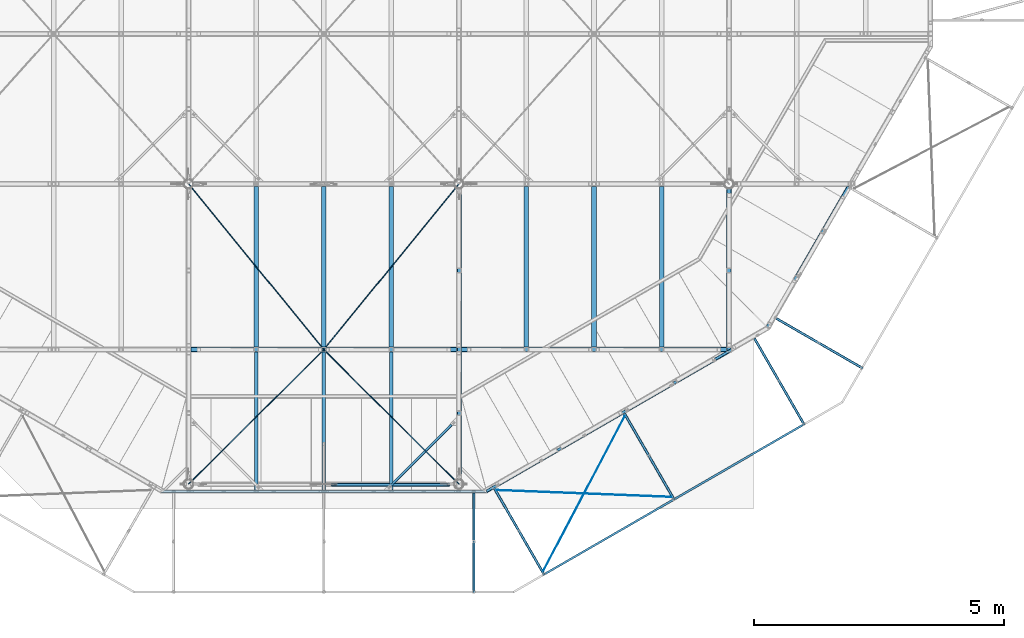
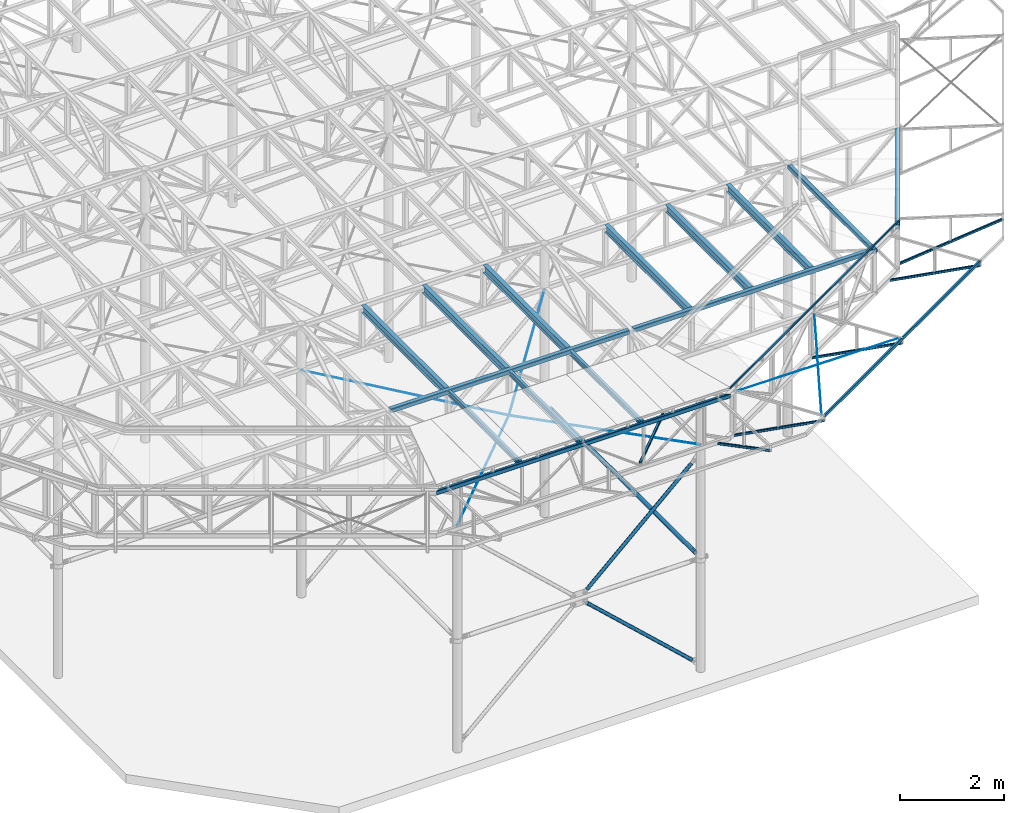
# One storey, part 11 of 132: 25 beams, 7 members, 32 elements without a shape of their own.
"""IFC2X3 building model written with IfcOpenShell, lengths in millimetres."""

from ifc_helpers import new_model, si_unit, frame, origin_with_axes, origin_2d_with_axis, place, context, subcontext, project, spatial, rectangle, hollow_rectangle, circle, hollow_circle, i_section, l_section, u_section, extrude, boolean, clip, halfspace, material, type_object, element, aggregate, save


model = new_model("IFC2X3")

# Units and contexts
model_context = context("Model", 3, precision=1e-05, world=origin_with_axes())
body_context = subcontext(model_context, "Body", "Model", "MODEL_VIEW")
ifc_project = project(units=[si_unit("LENGTHUNIT", "METRE", prefix="MILLI"), si_unit("AREAUNIT", "SQUARE_METRE"), si_unit("VOLUMEUNIT", "CUBIC_METRE"), si_unit("MASSUNIT", "GRAM", prefix="KILO"), si_unit("TIMEUNIT", "SECOND"), si_unit("PLANEANGLEUNIT", "RADIAN"), si_unit("SOLIDANGLEUNIT", "STERADIAN"), si_unit("THERMODYNAMICTEMPERATUREUNIT", "DEGREE_CELSIUS"), si_unit("LUMINOUSINTENSITYUNIT", "LUMEN")], contexts=[model_context])

# Site, building, storey
site_placement = place(None, origin_with_axes())
site = spatial("IfcSite", under=ifc_project, at=site_placement, Name="Budowa", CompositionType="ELEMENT")
building_placement = place(site_placement, origin_with_axes())
building = spatial("IfcBuilding", under=site, at=building_placement, Name="Undefined", CompositionType="ELEMENT")
storey_placement = place(building_placement, origin_with_axes())
storey = spatial("IfcBuildingStorey", under=building, at=storey_placement, Name="Undefined", CompositionType="ELEMENT", Elevation=0.0)

# Assembly, member
assembly_1_placement = place(storey_placement, origin_with_axes())
assembly_1 = element("IfcElementAssembly", 1, at=assembly_1_placement, inside=storey, Name="Steel Assembly", AssemblyPlace="NOTDEFINED", PredefinedType="RIGID_FRAME")
ifc_material_1 = material(Name="STEEL/S235JR")
member_type_1 = type_object("IfcMemberType", Name="CHS76.1*3", PredefinedType="NOTDEFINED")
member_1_placement = place(assembly_1_placement, frame((12125.0013347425, -9.99999994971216, 10116.0003779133), z_axis=(0.0, -1.0, 0.0), x_axis=(0.734552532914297, 0.0, -0.678551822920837)))
member_1 = element("IfcMember", 2, at=member_1_placement, type_object=member_type_1, material=ifc_material_1, Name="BEAM", ObjectType="CHS76.1*3", context=body_context, shape_type="CSG", body=[
    boolean("DIFFERENCE", boolean("DIFFERENCE", boolean("DIFFERENCE", boolean("DIFFERENCE", extrude(hollow_circle(Radius=38.05, WallThickness=3.0, at=origin_2d_with_axis()), frame((3399.19575233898, -1.88693269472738e-13, 0.0), z_axis=(-1.0, 0.0, 0.0), x_axis=(0.0, -1.0, 0.0)), (0.0, 0.0, 1.0), 3169.77), extrude(rectangle(XDim=10.0, YDim=80.1, at=origin_2d_with_axis()), frame((310.424563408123, 8.74467165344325e-13, 2.93223274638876e-06), z_axis=(-1.0, 0.0, 0.0), x_axis=(0.0, 0.0, -1.0)), (0.0, 0.0, 1.0), 83.0)), extrude(rectangle(XDim=10.0, YDim=78.1, at=origin_2d_with_axis()), frame((3318.19575233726, 0.0, 2.70282180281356e-06), z_axis=(1.0, 0.0, 0.0), x_axis=(0.0, 0.0, -1.0)), (0.0, 0.0, 1.0), 93.0)), halfspace(frame((3399.1957523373, -5.45696821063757e-12, -11.9999972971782), z_axis=(-1.0, 0.0, 0.0), x_axis=(0.0, 1.0, 0.0)), True)), halfspace(frame((229.424563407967, 5.45696821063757e-12, -11.9999970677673), z_axis=(1.0, 0.0, 0.0), x_axis=(0.0, -1.0, 0.0)), True)),
])
aggregate(assembly_1, [member_1])

assembly_2_placement = place(storey_placement, origin_with_axes())
assembly_2 = element("IfcElementAssembly", 3, at=assembly_2_placement, inside=storey, Name="Steel Assembly", AssemblyPlace="NOTDEFINED", PredefinedType="RIGID_FRAME")
member_2_placement = place(assembly_2_placement, frame((14684.1014860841, -9.99999994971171, 12480.0002212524), z_axis=(0.0, -1.0, 0.0), x_axis=(-0.734552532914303, 0.0, -0.67855182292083)))
member_2 = element("IfcMember", 4, at=member_2_placement, type_object=member_type_1, material=ifc_material_1, Name="BEAM", ObjectType="CHS76.1*3", context=body_context, shape_type="CSG", body=[
    boolean("DIFFERENCE", boolean("DIFFERENCE", boolean("DIFFERENCE", boolean("DIFFERENCE", extrude(hollow_circle(Radius=38.05, WallThickness=3.0, at=origin_2d_with_axis()), frame((3254.46533546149, 0.0, 0.0), z_axis=(-1.0, 0.0, 0.0), x_axis=(0.0, -1.0, 0.0)), (0.0, 0.0, 1.0), 3169.77), extrude(rectangle(XDim=10.0, YDim=80.1, at=origin_2d_with_axis()), frame((3173.46533545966, 5.74262859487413e-12, 3.21735569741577e-06), z_axis=(1.0, 0.0, 0.0), x_axis=(0.0, 0.0, -1.0)), (0.0, 0.0, 1.0), 83.0)), extrude(rectangle(XDim=10.0, YDim=78.1, at=origin_2d_with_axis()), frame((165.694149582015, 0.0, 2.42306850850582e-06), z_axis=(-1.0, 0.0, 0.0), x_axis=(0.0, 0.0, -1.0)), (0.0, 0.0, 1.0), 93.0)), halfspace(frame((3254.46533545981, 3.63797880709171e-12, -11.9999967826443), z_axis=(-1.0, 0.0, 0.0), x_axis=(0.0, 1.0, 0.0)), True)), halfspace(frame((84.6941495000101, -0.00128033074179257, -11.9999975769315), z_axis=(1.0, 0.0, 0.0), x_axis=(0.0, -1.0, 0.0)), True)),
])
aggregate(assembly_2, [member_2])

# Assembly, beam
assembly_3_placement = place(storey_placement, origin_with_axes())
assembly_3 = element("IfcElementAssembly", 5, at=assembly_3_placement, inside=storey, Name="Steel Assembly", AssemblyPlace="NOTDEFINED", PredefinedType="RIGID_FRAME")
beam_type_1 = type_object("IfcBeamType", Name="CHS88.9*3", PredefinedType="NOTDEFINED")
beam_1_placement = place(assembly_3_placement, frame((14832.9999935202, 88.900000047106, 10116.0003779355), z_axis=(1.0, 0.0, 0.0), x_axis=(0.0, 1.0, 0.0)))
beam_1 = element("IfcBeam", 6, at=beam_1_placement, type_object=beam_type_1, material=ifc_material_1, Name="BEAM", ObjectType="CHS88.9*3", context=body_context, shape_type="CSG", body=[
    boolean("DIFFERENCE", boolean("DIFFERENCE", boolean("DIFFERENCE", boolean("DIFFERENCE", extrude(hollow_circle(Radius=44.45, WallThickness=3.0, at=origin_2d_with_axis()), frame((5703.19209466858, 0.0, 0.0), z_axis=(-1.0, 0.0, 0.0), x_axis=(0.0, -1.0, 0.0)), (0.0, 0.0, 1.0), 5584.18), extrude(rectangle(XDim=9.0, YDim=92.9, at=origin_2d_with_axis()), frame((5602.19209466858, 0.0, 3.70549059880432e-06), z_axis=(1.0, 0.0, 0.0), x_axis=(0.0, 0.0, -1.0)), (0.0, 0.0, 1.0), 103.0)), extrude(rectangle(XDim=9.0, YDim=92.9, at=origin_2d_with_axis()), frame((220.00790537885, 0.0, 3.42542261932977e-06), z_axis=(-1.0, 0.0, 0.0), x_axis=(0.0, 0.0, -1.0)), (0.0, 0.0, 1.0), 103.0)), halfspace(frame((5703.19209466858, 0.0, -11.9999962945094), z_axis=(-1.0, 0.0, 0.0), x_axis=(0.0, 1.0, 0.0)), True)), halfspace(frame((119.00790537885, 0.0, -11.9999965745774), z_axis=(1.0, 0.0, 0.0), x_axis=(0.0, -1.0, 0.0)), True)),
])
aggregate(assembly_3, [beam_1])

assembly_4_placement = place(storey_placement, origin_with_axes())
assembly_4 = element("IfcElementAssembly", 7, at=assembly_4_placement, inside=storey, Name="Steel Assembly", AssemblyPlace="NOTDEFINED", PredefinedType="RIGID_FRAME")
ifc_material_2 = material(Name="STEEL/S235")
beam_type_2 = type_object("IfcBeamType", Name="L60*40*6", PredefinedType="NOTDEFINED")
beam_2_placement = place(assembly_4_placement, frame((15372.0002135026, -148.919114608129, 14004.0), z_axis=(-0.499992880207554, 0.866029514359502, 0.0), x_axis=(0.866029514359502, 0.499992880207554, 0.0)))
beam_2 = element("IfcBeam", 8, at=beam_2_placement, type_object=beam_type_2, material=ifc_material_2, Name="BEAM", ObjectType="L60*40*6", context=body_context, shape_type="Clipping", body=[
    clip(clip(extrude(l_section(Depth=60.0, Width=40.0, Thickness=6.0, FilletRadius=6.0, EdgeRadius=3.0, at=origin_2d_with_axis()), frame((6569.30011076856, 0.0, -3.64669411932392e-13), z_axis=(-1.0, 0.0, 0.0), x_axis=(0.0, -1.0, 0.0)), (0.0, 0.0, 1.0), 6613.74), halfspace(frame((6508.78109983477, 0.0, 29.9999999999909), z_axis=(-0.965926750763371, 0.0, -0.258815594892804), x_axis=(0.0, -1.0, 0.0)), True)), halfspace(frame((-1.35811551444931e-05, 1.81898940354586e-12, -30.0000000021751), z_axis=(0.965926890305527, 0.0, -0.258815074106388), x_axis=(0.0, -1.0, 0.0)), True)),
])
aggregate(assembly_4, [beam_2])

assembly_5_placement = place(storey_placement, origin_with_axes())
assembly_5 = element("IfcElementAssembly", 9, at=assembly_5_placement, inside=storey, Name="Steel Assembly", AssemblyPlace="NOTDEFINED", PredefinedType="RIGID_FRAME")
beam_type_3 = type_object("IfcBeamType", Name="IPE180", PredefinedType="NOTDEFINED")
beam_3_placement = place(assembly_5_placement, frame((16174.9999999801, 2739.00000004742, 13790.0), z_axis=(0.0, 0.0, 1.0), x_axis=(0.0, 1.0, 0.0)))
beam_3 = element("IfcBeam", 10, at=beam_3_placement, type_object=beam_type_3, material=ifc_material_2, Name="BEAM", ObjectType="IPE180", context=body_context, shape_type="SweptSolid", body=[
    extrude(i_section(OverallWidth=91.0, OverallDepth=180.0, WebThickness=5.300000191, FlangeThickness=8.0, FilletRadius=9.0, at=origin_2d_with_axis()), frame((3210.99999999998, 0.0, 0.0), z_axis=(-1.0, 0.0, 0.0), x_axis=(0.0, -1.0, 0.0)), (0.0, 0.0, 1.0), 3211.0),
])
aggregate(assembly_5, [beam_3])

assembly_6_placement = place(storey_placement, origin_with_axes())
assembly_6 = element("IfcElementAssembly", 11, at=assembly_6_placement, inside=storey, Name="Steel Assembly", AssemblyPlace="NOTDEFINED", PredefinedType="RIGID_FRAME")
beam_4_placement = place(assembly_6_placement, frame((18874.9999999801, 2739.00000004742, 13790.0), z_axis=(0.0, 0.0, 1.0), x_axis=(0.0, 1.0, 0.0)))
beam_4 = element("IfcBeam", 12, at=beam_4_placement, type_object=beam_type_3, material=ifc_material_2, Name="BEAM", ObjectType="IPE180", context=body_context, shape_type="SweptSolid", body=[
    extrude(i_section(OverallWidth=91.0, OverallDepth=180.0, WebThickness=5.300000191, FlangeThickness=8.0, FilletRadius=9.0, at=origin_2d_with_axis()), frame((3210.99999999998, 0.0, 0.0), z_axis=(-1.0, 0.0, 0.0), x_axis=(0.0, -1.0, 0.0)), (0.0, 0.0, 1.0), 3211.0),
])
aggregate(assembly_6, [beam_4])

assembly_7_placement = place(storey_placement, origin_with_axes())
assembly_7 = element("IfcElementAssembly", 13, at=assembly_7_placement, inside=storey, Name="Steel Assembly", AssemblyPlace="NOTDEFINED", PredefinedType="RIGID_FRAME")
beam_5_placement = place(assembly_7_placement, frame((17524.9999999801, 2739.00000004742, 13790.0), z_axis=(0.0, 0.0, 1.0), x_axis=(0.0, 1.0, 0.0)))
beam_5 = element("IfcBeam", 14, at=beam_5_placement, type_object=beam_type_3, material=ifc_material_2, Name="BEAM", ObjectType="IPE180", context=body_context, shape_type="SweptSolid", body=[
    extrude(i_section(OverallWidth=91.0, OverallDepth=180.0, WebThickness=5.300000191, FlangeThickness=8.0, FilletRadius=9.0, at=origin_2d_with_axis()), frame((3210.99999999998, 0.0, 0.0), z_axis=(-1.0, 0.0, 0.0), x_axis=(0.0, -1.0, 0.0)), (0.0, 0.0, 1.0), 3211.0),
])
aggregate(assembly_7, [beam_5])

assembly_8_placement = place(storey_placement, origin_with_axes())
assembly_8 = element("IfcElementAssembly", 15, at=assembly_8_placement, inside=storey, Name="Steel Assembly", AssemblyPlace="NOTDEFINED", PredefinedType="RIGID_FRAME")
beam_6_placement = place(assembly_8_placement, frame((10774.9999999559, 2739.00000004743, 13790.0), z_axis=(0.0, 0.0, 1.0), x_axis=(0.0, 1.0, 0.0)))
beam_6 = element("IfcBeam", 16, at=beam_6_placement, type_object=beam_type_3, material=ifc_material_2, Name="BEAM", ObjectType="IPE180", context=body_context, shape_type="SweptSolid", body=[
    extrude(i_section(OverallWidth=91.0, OverallDepth=180.0, WebThickness=5.300000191, FlangeThickness=8.0, FilletRadius=9.0, at=origin_2d_with_axis()), frame((3210.99999999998, 0.0, 0.0), z_axis=(-1.0, 0.0, 0.0), x_axis=(0.0, -1.0, 0.0)), (0.0, 0.0, 1.0), 3211.0),
])
aggregate(assembly_8, [beam_6])

assembly_9_placement = place(storey_placement, origin_with_axes())
assembly_9 = element("IfcElementAssembly", 17, at=assembly_9_placement, inside=storey, Name="Steel Assembly", AssemblyPlace="NOTDEFINED", PredefinedType="RIGID_FRAME")
beam_7_placement = place(assembly_9_placement, frame((13474.9999999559, 2739.00000004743, 13790.0), z_axis=(0.0, 0.0, 1.0), x_axis=(0.0, 1.0, 0.0)))
beam_7 = element("IfcBeam", 18, at=beam_7_placement, type_object=beam_type_3, material=ifc_material_2, Name="BEAM", ObjectType="IPE180", context=body_context, shape_type="SweptSolid", body=[
    extrude(i_section(OverallWidth=91.0, OverallDepth=180.0, WebThickness=5.300000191, FlangeThickness=8.0, FilletRadius=9.0, at=origin_2d_with_axis()), frame((3210.99999999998, 0.0, 0.0), z_axis=(-1.0, 0.0, 0.0), x_axis=(0.0, -1.0, 0.0)), (0.0, 0.0, 1.0), 3211.0),
])
aggregate(assembly_9, [beam_7])

assembly_10_placement = place(storey_placement, origin_with_axes())
assembly_10 = element("IfcElementAssembly", 19, at=assembly_10_placement, inside=storey, Name="Steel Assembly", AssemblyPlace="NOTDEFINED", PredefinedType="RIGID_FRAME")
beam_8_placement = place(assembly_10_placement, frame((12124.9999999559, 2739.00000004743, 13790.0), z_axis=(0.0, 0.0, 1.0), x_axis=(0.0, 1.0, 0.0)))
beam_8 = element("IfcBeam", 20, at=beam_8_placement, type_object=beam_type_3, material=ifc_material_2, Name="BEAM", ObjectType="IPE180", context=body_context, shape_type="SweptSolid", body=[
    extrude(i_section(OverallWidth=91.0, OverallDepth=180.0, WebThickness=5.300000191, FlangeThickness=8.0, FilletRadius=9.0, at=origin_2d_with_axis()), frame((3210.99999999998, 0.0, 0.0), z_axis=(-1.0, 0.0, 0.0), x_axis=(0.0, -1.0, 0.0)), (0.0, 0.0, 1.0), 3211.0),
])
aggregate(assembly_10, [beam_8])

assembly_11_placement = place(storey_placement, origin_with_axes())
assembly_11 = element("IfcElementAssembly", 21, at=assembly_11_placement, inside=storey, Name="Steel Assembly", AssemblyPlace="NOTDEFINED", PredefinedType="RIGID_FRAME")
beam_type_4 = type_object("IfcBeamType", Name="D10", PredefinedType="NOTDEFINED")
beam_9_placement = place(assembly_11_placement, frame((16513.6077559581, -1730.73260084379, 13945.5281319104), z_axis=(-0.0249673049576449, 0.0432481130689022, 0.998752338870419), x_axis=(0.465616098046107, 0.884585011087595, -0.0266647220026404)))
beam_9 = element("IfcBeam", 22, at=beam_9_placement, type_object=beam_type_4, material=ifc_material_2, Name="BEAM", ObjectType="D10", context=body_context, shape_type="SweptSolid", body=[
    extrude(circle(Radius=5.0, at=origin_2d_with_axis()), frame((3489.02120950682, 1.67199953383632e-13, 1.2104974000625e-14), z_axis=(-1.0, 0.0, 0.0), x_axis=(0.0, -1.0, 0.0)), (0.0, 0.0, 1.0), 3489.02),
])
aggregate(assembly_11, [beam_9])

assembly_12_placement = place(storey_placement, origin_with_axes())
assembly_12 = element("IfcElementAssembly", 23, at=assembly_12_placement, inside=storey, Name="Steel Assembly", AssemblyPlace="NOTDEFINED", PredefinedType="RIGID_FRAME")
beam_10_placement = place(assembly_12_placement, frame((19068.4339779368, -255.821425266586, 13945.5281319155), z_axis=(-0.0249673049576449, 0.0432481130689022, 0.998752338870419), x_axis=(-0.998878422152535, 0.0391265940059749, -0.0266647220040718)))
beam_10 = element("IfcBeam", 24, at=beam_10_placement, type_object=beam_type_4, material=ifc_material_2, Name="BEAM", ObjectType="D10", context=body_context, shape_type="SweptSolid", body=[
    extrude(circle(Radius=5.0, at=origin_2d_with_axis()), frame((3489.02120950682, 1.67199953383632e-13, 1.2104974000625e-14), z_axis=(-1.0, 0.0, 0.0), x_axis=(0.0, -1.0, 0.0)), (0.0, 0.0, 1.0), 3489.02),
])
aggregate(assembly_12, [beam_10])

assembly_13_placement = place(storey_placement, origin_with_axes())
assembly_13 = element("IfcElementAssembly", 25, at=assembly_13_placement, inside=storey, Name="Steel Assembly", AssemblyPlace="NOTDEFINED", PredefinedType="RIGID_FRAME")
beam_type_5 = type_object("IfcBeamType", Name="IPE120", PredefinedType="NOTDEFINED")
beam_11_placement = place(assembly_13_placement, frame((10774.9999999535, 2639.0000000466, 13820.0), z_axis=(0.0, 0.0, 1.0), x_axis=(0.0, -1.0, 0.0)))
beam_11 = element("IfcBeam", 26, at=beam_11_placement, type_object=beam_type_5, material=ifc_material_2, Name="BEAM", ObjectType="IPE120", context=body_context, shape_type="SweptSolid", body=[
    extrude(i_section(OverallWidth=64.0, OverallDepth=120.0, WebThickness=4.400000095, FlangeThickness=6.300000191, FilletRadius=7.0, at=origin_2d_with_axis()), frame((2753.90000000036, 0.0, 0.0), z_axis=(-1.0, 0.0, 0.0), x_axis=(0.0, -1.0, 0.0)), (0.0, 0.0, 1.0), 2753.9),
])
aggregate(assembly_13, [beam_11])

assembly_14_placement = place(storey_placement, origin_with_axes())
assembly_14 = element("IfcElementAssembly", 27, at=assembly_14_placement, inside=storey, Name="Steel Assembly", AssemblyPlace="NOTDEFINED", PredefinedType="RIGID_FRAME")
beam_12_placement = place(assembly_14_placement, frame((13474.9999999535, 2639.00000004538, 13820.0), z_axis=(0.0, 0.0, 1.0), x_axis=(0.0, -1.0, 0.0)))
beam_12 = element("IfcBeam", 28, at=beam_12_placement, type_object=beam_type_5, material=ifc_material_2, Name="BEAM", ObjectType="IPE120", context=body_context, shape_type="SweptSolid", body=[
    extrude(i_section(OverallWidth=64.0, OverallDepth=120.0, WebThickness=4.400000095, FlangeThickness=6.300000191, FilletRadius=7.0, at=origin_2d_with_axis()), frame((2753.90000000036, 0.0, 0.0), z_axis=(-1.0, 0.0, 0.0), x_axis=(0.0, -1.0, 0.0)), (0.0, 0.0, 1.0), 2753.9),
])
aggregate(assembly_14, [beam_12])

assembly_15_placement = place(storey_placement, origin_with_axes())
assembly_15 = element("IfcElementAssembly", 29, at=assembly_15_placement, inside=storey, Name="Steel Assembly", AssemblyPlace="NOTDEFINED", PredefinedType="RIGID_FRAME")
beam_13_placement = place(assembly_15_placement, frame((12124.9999999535, 2639.00000004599, 13820.0), z_axis=(0.0, 0.0, 1.0), x_axis=(0.0, -1.0, 0.0)))
beam_13 = element("IfcBeam", 30, at=beam_13_placement, type_object=beam_type_5, material=ifc_material_2, Name="BEAM", ObjectType="IPE120", context=body_context, shape_type="SweptSolid", body=[
    extrude(i_section(OverallWidth=64.0, OverallDepth=120.0, WebThickness=4.400000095, FlangeThickness=6.300000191, FilletRadius=7.0, at=origin_2d_with_axis()), frame((2753.90000000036, 0.0, 0.0), z_axis=(-1.0, 0.0, 0.0), x_axis=(0.0, -1.0, 0.0)), (0.0, 0.0, 1.0), 2753.9),
])
aggregate(assembly_15, [beam_13])

assembly_16_placement = place(storey_placement, origin_with_axes())
assembly_16 = element("IfcElementAssembly", 31, at=assembly_16_placement, inside=storey, Name="Steel Assembly", AssemblyPlace="NOTDEFINED", PredefinedType="RIGID_FRAME")
beam_type_6 = type_object("IfcBeamType", Name="C70*40*4", PredefinedType="NOTDEFINED")
beam_14_placement = place(assembly_16_placement, frame((16548.3120774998, -1790.84707632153, 13945.0050192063), z_axis=(0.0, 0.0, -1.0), x_axis=(0.866042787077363, 0.499969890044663, 0.0)))
beam_14 = element("IfcBeam", 32, at=beam_14_placement, type_object=beam_type_6, material=ifc_material_2, Name="BEAM", ObjectType="C70*40*4", context=body_context, shape_type="SweptSolid", body=[
    extrude(u_section(Depth=70.0, FlangeWidth=40.0, WebThickness=4.0, FlangeThickness=4.0, FilletRadius=6.0, at=origin_2d_with_axis()), frame((2949.99999995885, 1.63757896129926e-13, 0.0), z_axis=(-1.0, 0.0, 0.0), x_axis=(0.0, -1.0, 0.0)), (0.0, 0.0, 1.0), 2950.0),
])
aggregate(assembly_16, [beam_14])

assembly_17_placement = place(storey_placement, origin_with_axes())
assembly_17 = element("IfcElementAssembly", 33, at=assembly_17_placement, inside=storey, Name="Steel Assembly", AssemblyPlace="NOTDEFINED", PredefinedType="RIGID_FRAME")
beam_15_placement = place(assembly_17_placement, frame((19146.440438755, -290.93740614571, 13945.0050192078), z_axis=(0.0, 0.0, -1.0), x_axis=(0.866042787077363, 0.499969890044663, 0.0)))
beam_15 = element("IfcBeam", 34, at=beam_15_placement, type_object=beam_type_6, material=ifc_material_2, Name="BEAM", ObjectType="C70*40*4", context=body_context, shape_type="SweptSolid", body=[
    extrude(u_section(Depth=70.0, FlangeWidth=40.0, WebThickness=4.0, FlangeThickness=4.0, FilletRadius=6.0, at=origin_2d_with_axis()), frame((2949.99999995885, 1.63757896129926e-13, 0.0), z_axis=(-1.0, 0.0, 0.0), x_axis=(0.0, -1.0, 0.0)), (0.0, 0.0, 1.0), 2950.0),
])
aggregate(assembly_17, [beam_15])

# Assembly, member
assembly_18_placement = place(storey_placement, origin_with_axes())
assembly_18 = element("IfcElementAssembly", 35, at=assembly_18_placement, inside=storey, Name="Steel Assembly", AssemblyPlace="NOTDEFINED", PredefinedType="RIGID_FRAME")
member_type_2 = type_object("IfcMemberType", Name="SHS50*4", PredefinedType="NOTDEFINED")
member_3_placement = place(assembly_18_placement, frame((21158.0533468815, 3318.94936356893, 12802.1351883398), z_axis=(-0.499969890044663, -0.866042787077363, 0.0), x_axis=(0.766800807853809, -0.442677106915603, 0.464815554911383)))
member_3 = element("IfcMember", 36, at=member_3_placement, type_object=member_type_2, material=ifc_material_2, Name="BEAM", ObjectType="SHS50*4", context=body_context, shape_type="Clipping", body=[
    clip(clip(extrude(hollow_rectangle(XDim=50.0, YDim=50.0, WallThickness=4.0, InnerFilletRadius=4.0, OuterFilletRadius=8.0, at=origin_2d_with_axis()), frame((2325.27637080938, 1.2907876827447e-13, 5.21059351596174e-14), z_axis=(-1.0, 0.0, 0.0), x_axis=(0.0, -1.0, 0.0)), (0.0, 0.0, 1.0), 2325.28), halfspace(frame((26.2486785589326, 24.9999999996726, -25.0000000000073), z_axis=(-0.885407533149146, 0.464815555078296, 0.0), x_axis=(0.0, 0.0, 1.0)), False)), halfspace(frame((2258.9602037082, -25.0000000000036, -1.40062184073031e-10), z_axis=(-0.855808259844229, -0.517293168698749, 0.0), x_axis=(0.0, 0.0, -1.0)), True)),
])
aggregate(assembly_18, [member_3])

assembly_19_placement = place(storey_placement, origin_with_axes())
assembly_19 = element("IfcElementAssembly", 37, at=assembly_19_placement, inside=storey, Name="Steel Assembly", AssemblyPlace="NOTDEFINED", PredefinedType="RIGID_FRAME")
member_4_placement = place(assembly_19_placement, frame((20727.1173157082, 2921.38842371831, 12802.1351883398), z_axis=(0.866042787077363, 0.499969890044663, 0.0), x_axis=(0.442677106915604, -0.766800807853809, 0.464815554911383)))
member_4 = element("IfcMember", 38, at=member_4_placement, type_object=member_type_2, material=ifc_material_2, Name="BEAM", ObjectType="SHS50*4", context=body_context, shape_type="Clipping", body=[
    clip(clip(extrude(hollow_rectangle(XDim=50.0, YDim=50.0, WallThickness=4.0, InnerFilletRadius=4.0, OuterFilletRadius=8.0, at=origin_2d_with_axis()), frame((2325.27637080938, 1.2907876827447e-13, 5.21059351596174e-14), z_axis=(-1.0, 0.0, 0.0), x_axis=(0.0, -1.0, 0.0)), (0.0, 0.0, 1.0), 2325.28), halfspace(frame((26.2486785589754, -24.9999999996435, -25.0000000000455), z_axis=(-0.885407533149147, -0.464815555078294, 0.0), x_axis=(-0.464815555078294, 0.885407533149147, 0.0)), False)), halfspace(frame((2258.9602037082, 25.0000000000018, -1.41881173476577e-10), z_axis=(-0.855808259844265, 0.517293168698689, 0.0), x_axis=(0.0, 0.0, 1.0)), True)),
])
aggregate(assembly_19, [member_4])

assembly_20_placement = place(storey_placement, origin_with_axes())
assembly_20 = element("IfcElementAssembly", 39, at=assembly_20_placement, inside=storey, Name="Steel Assembly", AssemblyPlace="NOTDEFINED", PredefinedType="RIGID_FRAME")
member_5_placement = place(assembly_20_placement, frame((15530.8605932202, -78.4309165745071, 12802.1351883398), z_axis=(0.866042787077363, 0.499969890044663, 0.0), x_axis=(0.442677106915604, -0.766800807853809, 0.464815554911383)))
member_5 = element("IfcMember", 40, at=member_5_placement, type_object=member_type_2, material=ifc_material_2, Name="BEAM", ObjectType="SHS50*4", context=body_context, shape_type="Clipping", body=[
    clip(clip(extrude(hollow_rectangle(XDim=50.0, YDim=50.0, WallThickness=4.0, InnerFilletRadius=4.0, OuterFilletRadius=8.0, at=origin_2d_with_axis()), frame((2325.27637080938, 1.2907876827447e-13, 5.21059351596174e-14), z_axis=(-1.0, 0.0, 0.0), x_axis=(0.0, -1.0, 0.0)), (0.0, 0.0, 1.0), 2325.28), halfspace(frame((26.2486785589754, -24.9999999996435, -25.0000000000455), z_axis=(-0.885407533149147, -0.464815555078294, 0.0), x_axis=(-0.464815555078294, 0.885407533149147, 0.0)), False)), halfspace(frame((2258.9602037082, 25.0000000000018, -1.41881173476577e-10), z_axis=(-0.855808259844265, 0.517293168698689, 0.0), x_axis=(0.0, 0.0, 1.0)), True)),
])
aggregate(assembly_20, [member_5])

assembly_21_placement = place(storey_placement, origin_with_axes())
assembly_21 = element("IfcElementAssembly", 41, at=assembly_21_placement, inside=storey, Name="Steel Assembly", AssemblyPlace="NOTDEFINED", PredefinedType="RIGID_FRAME")
member_6_placement = place(assembly_21_placement, frame((18128.9889544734, 1421.47875358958, 12802.1351883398), z_axis=(0.866042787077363, 0.499969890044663, 0.0), x_axis=(0.442677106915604, -0.766800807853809, 0.464815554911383)))
member_6 = element("IfcMember", 42, at=member_6_placement, type_object=member_type_2, material=ifc_material_2, Name="BEAM", ObjectType="SHS50*4", context=body_context, shape_type="Clipping", body=[
    clip(clip(extrude(hollow_rectangle(XDim=50.0, YDim=50.0, WallThickness=4.0, InnerFilletRadius=4.0, OuterFilletRadius=8.0, at=origin_2d_with_axis()), frame((2325.27637080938, 1.2907876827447e-13, 5.21059351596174e-14), z_axis=(-1.0, 0.0, 0.0), x_axis=(0.0, -1.0, 0.0)), (0.0, 0.0, 1.0), 2325.28), halfspace(frame((26.2486785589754, -24.9999999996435, -25.0000000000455), z_axis=(-0.885407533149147, -0.464815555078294, 0.0), x_axis=(-0.464815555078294, 0.885407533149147, 0.0)), False)), halfspace(frame((2258.9602037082, 25.0000000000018, -1.41881173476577e-10), z_axis=(-0.855808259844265, 0.517293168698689, 0.0), x_axis=(0.0, 0.0, 1.0)), True)),
])
aggregate(assembly_21, [member_6])

assembly_22_placement = place(storey_placement, origin_with_axes())
assembly_22 = element("IfcElementAssembly", 43, at=assembly_22_placement, inside=storey, Name="Steel Assembly", AssemblyPlace="NOTDEFINED", PredefinedType="RIGID_FRAME")
member_7_placement = place(assembly_22_placement, frame((15124.9999999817, -163.279610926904, 12802.1351883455), z_axis=(1.0, 0.0, 0.0), x_axis=(0.0, -0.885407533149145, 0.464815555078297)))
member_7 = element("IfcMember", 44, at=member_7_placement, type_object=member_type_2, material=ifc_material_2, Name="BEAM", ObjectType="SHS50*4", context=body_context, shape_type="Clipping", body=[
    clip(clip(extrude(hollow_rectangle(XDim=50.0, YDim=50.0, WallThickness=4.0, InnerFilletRadius=4.0, OuterFilletRadius=8.0, at=origin_2d_with_axis()), frame((2286.55526217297, 7.105427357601e-15, -1.81898940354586e-12), z_axis=(-1.0, 0.0, 0.0), x_axis=(0.0, -1.0, 0.0)), (0.0, 0.0, 1.0), 2286.56), halfspace(frame((26.2486785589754, -24.9999999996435, -25.0000000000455), z_axis=(-0.885407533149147, -0.464815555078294, 0.0), x_axis=(-0.464815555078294, 0.885407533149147, 0.0)), False)), halfspace(frame((2258.9602037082, 25.0000000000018, -1.41881173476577e-10), z_axis=(-0.855808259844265, 0.517293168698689, 0.0), x_axis=(0.0, 0.0, 1.0)), True)),
])
aggregate(assembly_22, [member_7])

# Assembly, beam
assembly_23_placement = place(storey_placement, origin_with_axes())
assembly_23 = element("IfcElementAssembly", 45, at=assembly_23_placement, inside=storey, Name="Steel Assembly", AssemblyPlace="NOTDEFINED", PredefinedType="RIGID_FRAME")
beam_type_7 = type_object("IfcBeamType", Name="D16", PredefinedType="NOTDEFINED")
beam_16_placement = place(assembly_23_placement, frame((14824.9999999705, 6000.00000004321, 12780.0), z_axis=(0.0, 0.0, 1.0), x_axis=(-0.632089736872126, -0.774895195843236, 0.0)))
beam_16 = element("IfcBeam", 46, at=beam_16_placement, type_object=beam_type_7, material=ifc_material_2, Name="BEAM", ObjectType="D16", context=body_context, shape_type="SweptSolid", body=[
    extrude(circle(Radius=8.0, at=origin_2d_with_axis()), frame((4271.54538738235, 0.0, 0.0), z_axis=(-1.0, 0.0, 0.0), x_axis=(0.0, -1.0, 0.0)), (0.0, 0.0, 1.0), 4271.55),
])
aggregate(assembly_23, [beam_16])

assembly_24_placement = place(storey_placement, origin_with_axes())
assembly_24 = element("IfcElementAssembly", 47, at=assembly_24_placement, inside=storey, Name="Steel Assembly", AssemblyPlace="NOTDEFINED", PredefinedType="RIGID_FRAME")
beam_17_placement = place(assembly_24_placement, frame((12124.9999999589, 2690.00000067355, 12780.0), z_axis=(0.0, 0.0, 1.0), x_axis=(-0.632089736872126, 0.774895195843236, 0.0)))
beam_17 = element("IfcBeam", 48, at=beam_17_placement, type_object=beam_type_7, material=ifc_material_2, Name="BEAM", ObjectType="D16", context=body_context, shape_type="SweptSolid", body=[
    extrude(circle(Radius=8.0, at=origin_2d_with_axis()), frame((4271.54538738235, 0.0, 0.0), z_axis=(-1.0, 0.0, 0.0), x_axis=(0.0, -1.0, 0.0)), (0.0, 0.0, 1.0), 4271.55),
])
aggregate(assembly_24, [beam_17])

assembly_25_placement = place(storey_placement, origin_with_axes())
assembly_25 = element("IfcElementAssembly", 49, at=assembly_25_placement, inside=storey, Name="Steel Assembly", AssemblyPlace="NOTDEFINED", PredefinedType="RIGID_FRAME")
beam_18_placement = place(assembly_25_placement, frame((9424.99999994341, 4.52314452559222e-08, 12780.0), z_axis=(0.0, 0.0, 1.0), x_axis=(0.708417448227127, 0.705793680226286, 0.0)))
beam_18 = element("IfcBeam", 50, at=beam_18_placement, type_object=beam_type_7, material=ifc_material_2, Name="BEAM", ObjectType="D16", context=body_context, shape_type="SweptSolid", body=[
    extrude(circle(Radius=8.0, at=origin_2d_with_axis()), frame((3811.31211046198, 0.0, -1.81898940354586e-12), z_axis=(-1.0, 0.0, 0.0), x_axis=(0.0, -1.0, 0.0)), (0.0, 0.0, 1.0), 3811.31),
])
aggregate(assembly_25, [beam_18])

assembly_26_placement = place(storey_placement, origin_with_axes())
assembly_26 = element("IfcElementAssembly", 51, at=assembly_26_placement, inside=storey, Name="Steel Assembly", AssemblyPlace="NOTDEFINED", PredefinedType="RIGID_FRAME")
beam_19_placement = place(assembly_26_placement, frame((12124.9999999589, 2690.00000067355, 12780.0), z_axis=(0.0, 0.0, 1.0), x_axis=(0.708417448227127, -0.705793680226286, 0.0)))
beam_19 = element("IfcBeam", 52, at=beam_19_placement, type_object=beam_type_7, material=ifc_material_2, Name="BEAM", ObjectType="D16", context=body_context, shape_type="SweptSolid", body=[
    extrude(circle(Radius=8.0, at=origin_2d_with_axis()), frame((3811.31211046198, 0.0, -1.81898940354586e-12), z_axis=(-1.0, 0.0, 0.0), x_axis=(0.0, -1.0, 0.0)), (0.0, 0.0, 1.0), 3811.31),
])
aggregate(assembly_26, [beam_19])

assembly_27_placement = place(storey_placement, origin_with_axes())
assembly_27 = element("IfcElementAssembly", 53, at=assembly_27_placement, inside=storey, Name="Steel Assembly", AssemblyPlace="NOTDEFINED", PredefinedType="RIGID_FRAME")
beam_type_8 = type_object("IfcBeamType", Name="SHS50*5", PredefinedType="NOTDEFINED")
beam_20_placement = place(assembly_27_placement, frame((15074.9999999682, 1584.90000010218, 12830.0), z_axis=(0.0, 0.0, 1.0), x_axis=(-0.70710678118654, -0.707106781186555, 0.0)))
beam_20 = element("IfcBeam", 54, at=beam_20_placement, type_object=beam_type_8, material=ifc_material_2, Name="BEAM", ObjectType="SHS50*5", context=body_context, shape_type="Clipping", body=[
    clip(clip(extrude(hollow_rectangle(XDim=50.0, YDim=50.0, WallThickness=5.0, InnerFilletRadius=5.0, OuterFilletRadius=10.0, at=origin_2d_with_axis()), frame((2264.08122086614, 0.0, 0.0), z_axis=(-1.0, 0.0, 0.0), x_axis=(0.0, -1.0, 0.0)), (0.0, 0.0, 1.0), 1700.02), halfspace(frame((2264.08122086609, 9.09494701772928e-11, -9.0), z_axis=(-1.0, 0.0, 0.0), x_axis=(0.0, 1.0, 0.0)), True)), halfspace(frame((564.063061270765, -1.43882061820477e-09, -8.99999999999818), z_axis=(1.0, 0.0, 0.0), x_axis=(0.0, -1.0, 0.0)), True)),
])
aggregate(assembly_27, [beam_20])

assembly_28_placement = place(storey_placement, origin_with_axes())
assembly_28 = element("IfcElementAssembly", 55, at=assembly_28_placement, inside=storey, Name="Steel Assembly", AssemblyPlace="NOTDEFINED", PredefinedType="RIGID_FRAME")
beam_type_9 = type_object("IfcBeamType", Name="SHS100*8", PredefinedType="NOTDEFINED")
beam_21_placement = place(assembly_28_placement, frame((14874.9999999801, 2690.00000004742, 13830.0), z_axis=(0.0, -1.0, 0.0), x_axis=(1.0, 0.0, 0.0)))
beam_21 = element("IfcBeam", 56, at=beam_21_placement, type_object=beam_type_9, material=ifc_material_2, Name="BEAM", ObjectType="SHS100*8", context=body_context, shape_type="SweptSolid", body=[
    extrude(hollow_rectangle(XDim=100.0, YDim=100.0, WallThickness=8.0, InnerFilletRadius=8.0, OuterFilletRadius=16.0, at=origin_2d_with_axis()), frame((5300.0, 0.0, 0.0), z_axis=(-1.0, 0.0, 0.0), x_axis=(0.0, -1.0, 0.0)), (0.0, 0.0, 1.0), 5300.0),
])
aggregate(assembly_28, [beam_21])

assembly_29_placement = place(storey_placement, origin_with_axes())
assembly_29 = element("IfcElementAssembly", 57, at=assembly_29_placement, inside=storey, Name="Steel Assembly", AssemblyPlace="NOTDEFINED", PredefinedType="RIGID_FRAME")
beam_22_placement = place(assembly_29_placement, frame((20225.0, 5911.10000004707, 13830.0), z_axis=(-1.0, 0.0, 0.0), x_axis=(0.0, -1.0, 0.0)))
beam_22 = element("IfcBeam", 58, at=beam_22_placement, type_object=beam_type_9, material=ifc_material_2, Name="BEAM", ObjectType="SHS100*8", context=body_context, shape_type="CSG", body=[
    boolean("DIFFERENCE", boolean("DIFFERENCE", extrude(hollow_rectangle(XDim=100.0, YDim=100.0, WallThickness=8.0, InnerFilletRadius=8.0, OuterFilletRadius=16.0, at=origin_2d_with_axis()), frame((3271.09999999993, 0.0, 0.0), z_axis=(-1.0, 0.0, 0.0), x_axis=(0.0, -1.0, 0.0)), (0.0, 0.0, 1.0), 3360.0), extrude(circle(Radius=89.9, at=origin_2d_with_axis()), frame((-88.9000000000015, 1950.0, -5.45696821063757e-12), z_axis=(0.0, -1.0, 0.0), x_axis=(1.0, 0.0, 0.0)), (0.0, 0.0, 1.0), 2100.0)), halfspace(frame((-88.9000000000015, -6339.0, -5.45696821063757e-12), z_axis=(-1.0, 0.0, 0.0), x_axis=(0.0, 0.0, -1.0)), False)),
])
aggregate(assembly_29, [beam_22])

assembly_30_placement = place(storey_placement, origin_with_axes())
assembly_30 = element("IfcElementAssembly", 59, at=assembly_30_placement, inside=storey, Name="Steel Assembly", AssemblyPlace="NOTDEFINED", PredefinedType="RIGID_FRAME")
beam_23_placement = place(assembly_30_placement, frame((9474.9999999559, 2689.00000004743, 13830.0), z_axis=(0.0, -1.0, 0.0), x_axis=(1.0, 0.0, 0.0)))
beam_23 = element("IfcBeam", 60, at=beam_23_placement, type_object=beam_type_9, material=ifc_material_2, Name="BEAM", ObjectType="SHS100*8", context=body_context, shape_type="SweptSolid", body=[
    extrude(hollow_rectangle(XDim=100.0, YDim=100.0, WallThickness=8.0, InnerFilletRadius=8.0, OuterFilletRadius=16.0, at=origin_2d_with_axis()), frame((5300.0, 0.0, 0.0), z_axis=(-1.0, 0.0, 0.0), x_axis=(0.0, -1.0, 0.0)), (0.0, 0.0, 1.0), 5300.0),
])
aggregate(assembly_30, [beam_23])

assembly_31_placement = place(storey_placement, origin_with_axes())
assembly_31 = element("IfcElementAssembly", 61, at=assembly_31_placement, inside=storey, Name="Steel Assembly", AssemblyPlace="NOTDEFINED", PredefinedType="RIGID_FRAME")
beam_type_10 = type_object("IfcBeamType", Name="SHS100*5", PredefinedType="NOTDEFINED")
beam_24_placement = place(assembly_31_placement, frame((20994.4181832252, 3112.48245776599, 13830.0), z_axis=(0.0, 0.0, 1.0), x_axis=(0.5000000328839, 0.866025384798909, 0.0)))
beam_24 = element("IfcBeam", 62, at=beam_24_placement, type_object=beam_type_10, material=ifc_material_2, Name="BEAM", ObjectType="SHS100*5", context=body_context, shape_type="Clipping", body=[
    clip(clip(extrude(hollow_rectangle(XDim=100.0, YDim=100.0, WallThickness=5.0, InnerFilletRadius=5.0, OuterFilletRadius=10.0, at=origin_2d_with_axis()), frame((3363.31663048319, 1.86701578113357e-13, 0.0), z_axis=(-1.0, 0.0, 0.0), x_axis=(0.0, -1.0, 0.0)), (0.0, 0.0, 1.0), 3429.57), halfspace(frame((3247.84656727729, 50.000000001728, -50.0), z_axis=(0.866025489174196, 0.499999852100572, 0.0), x_axis=(0.5000000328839, -0.866025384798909, 0.0)), False)), halfspace(frame((3.27163434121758e-08, -50.0000000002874, 0.0), z_axis=(0.965921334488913, -0.258835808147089, 0.0), x_axis=(0.0, 0.0, 1.0)), True)),
])
aggregate(assembly_31, [beam_24])

assembly_32_placement = place(storey_placement, origin_with_axes())
assembly_32 = element("IfcElementAssembly", 63, at=assembly_32_placement, inside=storey, Name="Steel Assembly", AssemblyPlace="NOTDEFINED", PredefinedType="RIGID_FRAME")
beam_type_11 = type_object("IfcBeamType", Name="RHS100*60*6", PredefinedType="NOTDEFINED")
beam_25_placement = place(assembly_32_placement, frame((8861.99999994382, -144.899999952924, 13830.0), z_axis=(0.0, 0.0, 1.0), x_axis=(1.0, 0.0, 0.0)))
beam_25 = element("IfcBeam", 64, at=beam_25_placement, type_object=beam_type_11, material=ifc_material_2, Name="BEAM", ObjectType="RHS100*60*6", context=body_context, shape_type="Clipping", body=[
    clip(clip(extrude(hollow_rectangle(XDim=60.0, YDim=100.0, WallThickness=6.0, InnerFilletRadius=6.0, OuterFilletRadius=12.0, at=origin_2d_with_axis()), frame((6574.00113225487, 0.0, 0.0), z_axis=(-1.0, 0.0, 0.0), x_axis=(0.0, -1.0, 0.0)), (0.0, 0.0, 1.0), 6622.0), halfspace(frame((6428.91934847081, 29.9999999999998, 0.0), z_axis=(-0.529678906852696, -0.848198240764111, 0.0), x_axis=(0.0, 0.0, 1.0)), True)), halfspace(frame((1.00000004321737, -29.9999999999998, 0.0), z_axis=(0.529678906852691, -0.848198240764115, 0.0), x_axis=(0.0, 0.0, 1.0)), True)),
])
aggregate(assembly_32, [beam_25])

save(model, "model.ifc")
